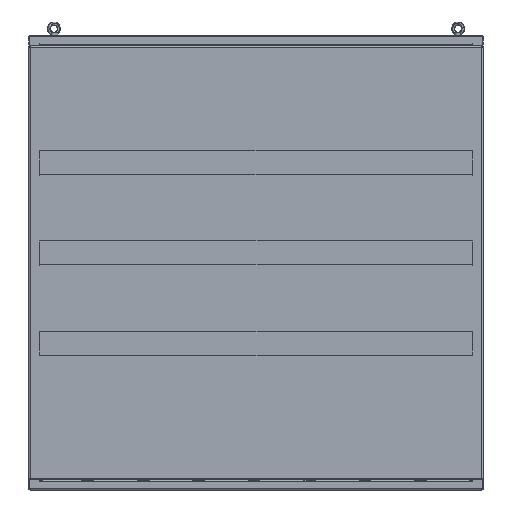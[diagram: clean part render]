
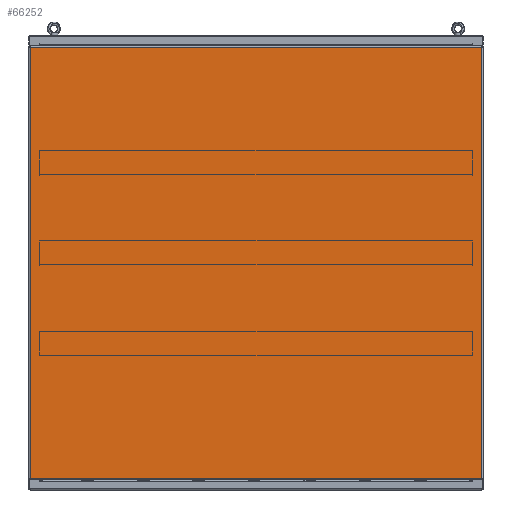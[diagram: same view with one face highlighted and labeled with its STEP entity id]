
A CAD part, front view. The second image highlights one B-rep face of the part: STEP entity #66252.
In plain terms, the highlighted planar face has unit normal (0, -1, 0).
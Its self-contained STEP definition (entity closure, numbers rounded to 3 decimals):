
#5288=FACE_OUTER_BOUND('',#9199,.T.);
#9199=EDGE_LOOP('',(#53433,#53434,#53435,#53436));
#17664=LINE('',#111078,#23604);
#17665=LINE('',#111080,#23605);
#17666=LINE('',#111082,#23606);
#17667=LINE('',#111083,#23607);
#23604=VECTOR('',#87284,10.);
#23605=VECTOR('',#87285,10.);
#23606=VECTOR('',#87286,10.);
#23607=VECTOR('',#87287,10.);
#29021=VERTEX_POINT('',#111076);
#29022=VERTEX_POINT('',#111077);
#29023=VERTEX_POINT('',#111079);
#29024=VERTEX_POINT('',#111081);
#37350=EDGE_CURVE('',#29021,#29022,#17664,.T.);
#37351=EDGE_CURVE('',#29022,#29023,#17665,.T.);
#37352=EDGE_CURVE('',#29023,#29024,#17666,.T.);
#37353=EDGE_CURVE('',#29024,#29021,#17667,.T.);
#53433=ORIENTED_EDGE('',*,*,#37350,.T.);
#53434=ORIENTED_EDGE('',*,*,#37351,.T.);
#53435=ORIENTED_EDGE('',*,*,#37352,.T.);
#53436=ORIENTED_EDGE('',*,*,#37353,.T.);
#59819=PLANE('',#71850);
#66252=ADVANCED_FACE('',(#5288),#59819,.T.);
#71850=AXIS2_PLACEMENT_3D('',#111075,#87282,#87283);
#87282=DIRECTION('center_axis',(0.,-1.,0.));
#87283=DIRECTION('ref_axis',(0.,0.,-1.));
#87284=DIRECTION('',(1.,0.,0.));
#87285=DIRECTION('',(0.,0.,1.));
#87286=DIRECTION('',(-1.,0.,0.));
#87287=DIRECTION('',(0.,0.,-1.));
#111075=CARTESIAN_POINT('Origin',(0.,-500.,899.25));
#111076=CARTESIAN_POINT('',(-894.494,-500.,45.506));
#111077=CARTESIAN_POINT('',(894.494,-500.,45.506));
#111078=CARTESIAN_POINT('',(-447.247,-500.,45.506));
#111079=CARTESIAN_POINT('',(894.494,-500.,1752.994));
#111080=CARTESIAN_POINT('',(894.494,-500.,472.378));
#111081=CARTESIAN_POINT('',(-894.494,-500.,1752.994));
#111082=CARTESIAN_POINT('',(447.247,-500.,1752.994));
#111083=CARTESIAN_POINT('',(-894.494,-500.,1326.122));
